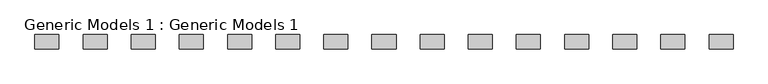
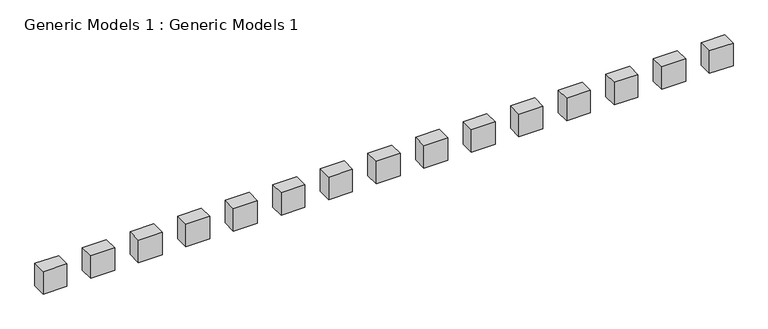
"""IFC4 building model written with IfcOpenShell, lengths in millimetres: proxy geometry, Generic Models 1 : Generic Models 1."""

from ifc_helpers import new_model, si_unit, frame, origin, place, context, project, spatial, polyline, outline, extrude, source, transform, mapped, element, save


def generic_models_1_generic_models_1_e51c70c9(model_context):
    return source(origin(), model_context, "Body", "SweptSolid", [
        extrude(outline(polyline([(2927.4377881, -2583.7498298), (2877.4377881, -2583.7498298), (2877.4377881, -2553.7498298), (2927.4377881, -2553.7498298), (2927.4377881, -2583.7498298)])), frame((0.0, 0.0, 2065.0), z_axis=(0.0, 0.0, 1.0), x_axis=(1.0, 0.0, 0.0)), (0.0, 0.0, 1.0), 50.0),
        extrude(outline(polyline([(2827.4377881, -2583.7498298), (2777.4377881, -2583.7498298), (2777.4377881, -2553.7498298), (2827.4377881, -2553.7498298), (2827.4377881, -2583.7498298)])), frame((0.0, 0.0, 2065.0), z_axis=(0.0, 0.0, 1.0), x_axis=(1.0, 0.0, 0.0)), (0.0, 0.0, 1.0), 50.0),
        extrude(outline(polyline([(2727.4377881, -2583.7498298), (2677.4377881, -2583.7498298), (2677.4377881, -2553.7498298), (2727.4377881, -2553.7498298), (2727.4377881, -2583.7498298)])), frame((0.0, 0.0, 2065.0), z_axis=(0.0, 0.0, 1.0), x_axis=(1.0, 0.0, 0.0)), (0.0, 0.0, 1.0), 50.0),
        extrude(outline(polyline([(2627.4377881, -2583.7498298), (2577.4377881, -2583.7498298), (2577.4377881, -2553.7498298), (2627.4377881, -2553.7498298), (2627.4377881, -2583.7498298)])), frame((0.0, 0.0, 2065.0), z_axis=(0.0, 0.0, 1.0), x_axis=(1.0, 0.0, 0.0)), (0.0, 0.0, 1.0), 50.0),
        extrude(outline(polyline([(2527.4377881, -2583.7498298), (2477.4377881, -2583.7498298), (2477.4377881, -2553.7498298), (2527.4377881, -2553.7498298), (2527.4377881, -2583.7498298)])), frame((0.0, 0.0, 2065.0), z_axis=(0.0, 0.0, 1.0), x_axis=(1.0, 0.0, 0.0)), (0.0, 0.0, 1.0), 50.0),
        extrude(outline(polyline([(2427.4377881, -2583.7498298), (2377.4377881, -2583.7498298), (2377.4377881, -2553.7498298), (2427.4377881, -2553.7498298), (2427.4377881, -2583.7498298)])), frame((0.0, 0.0, 2065.0), z_axis=(0.0, 0.0, 1.0), x_axis=(1.0, 0.0, 0.0)), (0.0, 0.0, 1.0), 50.0),
        extrude(outline(polyline([(2327.4377881, -2583.7498298), (2277.4377881, -2583.7498298), (2277.4377881, -2553.7498298), (2327.4377881, -2553.7498298), (2327.4377881, -2583.7498298)])), frame((0.0, 0.0, 2065.0), z_axis=(0.0, 0.0, 1.0), x_axis=(1.0, 0.0, 0.0)), (0.0, 0.0, 1.0), 50.0),
        extrude(outline(polyline([(2227.4377881, -2583.7498298), (2177.4377881, -2583.7498298), (2177.4377881, -2553.7498298), (2227.4377881, -2553.7498298), (2227.4377881, -2583.7498298)])), frame((0.0, 0.0, 2065.0), z_axis=(0.0, 0.0, 1.0), x_axis=(1.0, 0.0, 0.0)), (0.0, 0.0, 1.0), 50.0),
        extrude(outline(polyline([(2127.4377881, -2583.7498298), (2077.4377881, -2583.7498298), (2077.4377881, -2553.7498298), (2127.4377881, -2553.7498298), (2127.4377881, -2583.7498298)])), frame((0.0, 0.0, 2065.0), z_axis=(0.0, 0.0, 1.0), x_axis=(1.0, 0.0, 0.0)), (0.0, 0.0, 1.0), 50.0),
        extrude(outline(polyline([(2027.4377881, -2583.7498298), (1977.4377881, -2583.7498298), (1977.4377881, -2553.7498298), (2027.4377881, -2553.7498298), (2027.4377881, -2583.7498298)])), frame((0.0, 0.0, 2065.0), z_axis=(0.0, 0.0, 1.0), x_axis=(1.0, 0.0, 0.0)), (0.0, 0.0, 1.0), 50.0),
        extrude(outline(polyline([(1927.4377881, -2583.7498298), (1877.4377881, -2583.7498298), (1877.4377881, -2553.7498298), (1927.4377881, -2553.7498298), (1927.4377881, -2583.7498298)])), frame((0.0, 0.0, 2065.0), z_axis=(0.0, 0.0, 1.0), x_axis=(1.0, 0.0, 0.0)), (0.0, 0.0, 1.0), 50.0),
        extrude(outline(polyline([(1827.4377881, -2583.7498298), (1777.4377881, -2583.7498298), (1777.4377881, -2553.7498298), (1827.4377881, -2553.7498298), (1827.4377881, -2583.7498298)])), frame((0.0, 0.0, 2065.0), z_axis=(0.0, 0.0, 1.0), x_axis=(1.0, 0.0, 0.0)), (0.0, 0.0, 1.0), 50.0),
        extrude(outline(polyline([(1727.4377881, -2583.7498298), (1677.4377881, -2583.7498298), (1677.4377881, -2553.7498298), (1727.4377881, -2553.7498298), (1727.4377881, -2583.7498298)])), frame((0.0, 0.0, 2065.0), z_axis=(0.0, 0.0, 1.0), x_axis=(1.0, 0.0, 0.0)), (0.0, 0.0, 1.0), 50.0),
        extrude(outline(polyline([(1627.4377881, -2583.7498298), (1577.4377881, -2583.7498298), (1577.4377881, -2553.7498298), (1627.4377881, -2553.7498298), (1627.4377881, -2583.7498298)])), frame((0.0, 0.0, 2065.0), z_axis=(0.0, 0.0, 1.0), x_axis=(1.0, 0.0, 0.0)), (0.0, 0.0, 1.0), 50.0),
        extrude(outline(polyline([(1527.4377881, -2583.7498298), (1477.4377881, -2583.7498298), (1477.4377881, -2553.7498298), (1527.4377881, -2553.7498298), (1527.4377881, -2583.7498298)])), frame((0.0, 0.0, 2065.0), z_axis=(0.0, 0.0, 1.0), x_axis=(1.0, 0.0, 0.0)), (0.0, 0.0, 1.0), 50.0),
    ])


if __name__ == "__main__":
    model = new_model("IFC4")
    model_context = context("Model", 3, world=origin())
    ifc_project = project(units=[si_unit("LENGTHUNIT", "METRE", prefix="MILLI")], contexts=[model_context])
    site = spatial("IfcSite", under=ifc_project)
    building = spatial("IfcBuilding", under=site)
    placement = place(None, origin())
    generic_models_1_generic_models_1_shape = generic_models_1_generic_models_1_e51c70c9(model_context)
    element("IfcBuildingElementProxy", 1, Name="Generic Models 1 : Generic Models 1", ObjectType="Generic Models 1 : Generic Models 1", at=placement, inside=building, context=model_context, shape_type="MappedRepresentation", body=[
        mapped(generic_models_1_generic_models_1_shape, transform((0.0, 0.0, 0.0), x_axis=(1.0, 0.0, 0.0), y_axis=(0.0, 1.0, 0.0), z_axis=(0.0, 0.0, 1.0))),
    ])
    save(model, "model.ifc")
